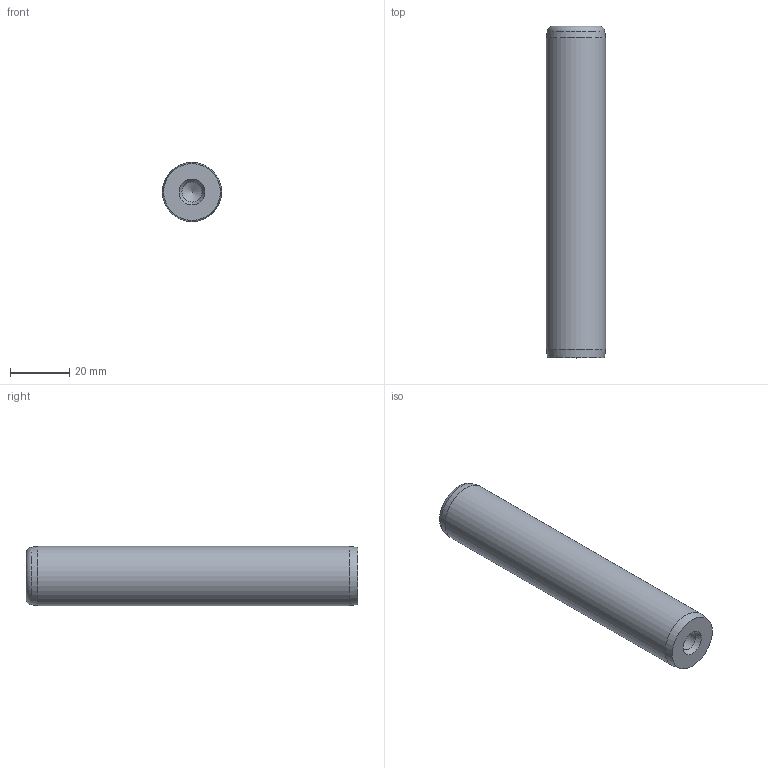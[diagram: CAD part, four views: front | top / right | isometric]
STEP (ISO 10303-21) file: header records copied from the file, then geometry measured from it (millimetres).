
FILE_DESCRIPTION( ( 'STEP AP203' ), '1' );
FILE_NAME( 'D:/Cuma/D14/D14_20112.step', '2003-01-18T23:35:36', ( ' ' ), ( ' ' ), 'XStep 1.0', ' ', ' ' );
FILE_SCHEMA( ( 'CONFIG_CONTROL_DESIGN' ) );
Length unit declared in the file: metre
Products named in the file (1): 1
Bounding box: 20 x 112 x 20 mm (x, y, z)
Volume: 33076.6 mm3; surface area: 8660.1 mm2
Topology: 1 solids, 1 shells, 14 faces, 29 edges, 17 vertices
Faces by surface type: cone 6, cylinder 5, plane 2, torus 1
Full cylindrical faces by diameter (mm): 6.75 x4, 20 x1
Entity records: 327 total; most frequent: DIRECTION 56, CARTESIAN_POINT 43, AXIS2_PLACEMENT_3D 28, EDGE_LOOP 26, ORIENTED_EDGE 26, FACE_OUTER_BOUND 20, VERTEX_POINT 15, ADVANCED_FACE 14
